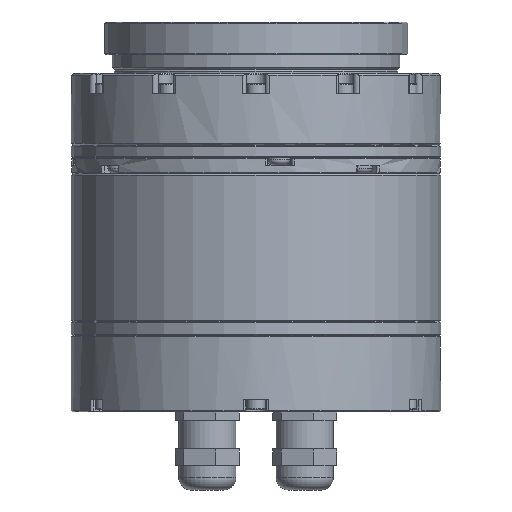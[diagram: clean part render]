
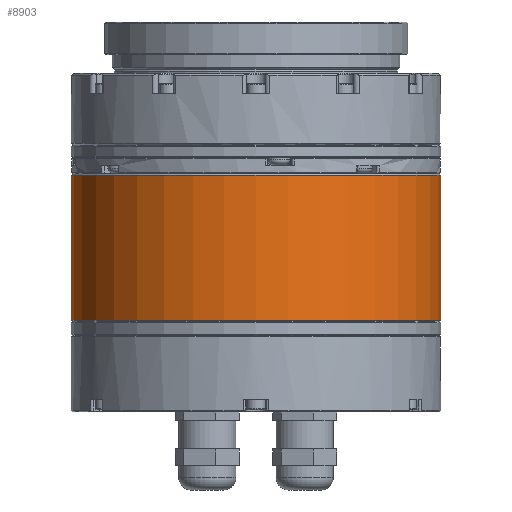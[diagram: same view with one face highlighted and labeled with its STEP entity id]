
A CAD part, front view. The second image highlights one B-rep face of the part: STEP entity #8903.
In plain terms, the highlighted cylindrical face has radius 45 mm (diameter 90 mm), a full revolution.
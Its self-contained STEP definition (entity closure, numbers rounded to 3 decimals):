
#7020=CYLINDRICAL_SURFACE('',#37384,45.);
#8903=ADVANCED_FACE('',(#12283,#12284),#7020,.T.);
#12283=FACE_BOUND('',#15716,.T.);
#12284=FACE_BOUND('',#15717,.T.);
#15716=EDGE_LOOP('',(#22861));
#15717=EDGE_LOOP('',(#22862));
#22861=ORIENTED_EDGE('',*,*,#30656,.F.);
#22862=ORIENTED_EDGE('',*,*,#30655,.T.);
#26898=VERTEX_POINT('',#58289);
#26899=VERTEX_POINT('',#58292);
#30655=EDGE_CURVE('',#26898,#26898,#33314,.T.);
#30656=EDGE_CURVE('',#26899,#26899,#33315,.T.);
#33314=CIRCLE('',#37381,45.);
#33315=CIRCLE('',#37383,45.);
#37381=AXIS2_PLACEMENT_3D('',#58288,#46671,#46672);
#37383=AXIS2_PLACEMENT_3D('',#58291,#46675,#46676);
#37384=AXIS2_PLACEMENT_3D('',#58293,#46677,#46678);
#46671=DIRECTION('',(0.,0.,-1.));
#46672=DIRECTION('',(0.,1.,0.));
#46675=DIRECTION('',(0.,0.,-1.));
#46676=DIRECTION('',(0.,1.,0.));
#46677=DIRECTION('',(0.,0.,-1.));
#46678=DIRECTION('',(0.,-1.,0.));
#58288=CARTESIAN_POINT('',(0.,0.,1.5));
#58289=CARTESIAN_POINT('',(0.,45.,1.5));
#58291=CARTESIAN_POINT('',(0.,0.,-33.8));
#58292=CARTESIAN_POINT('',(0.,45.,-33.8));
#58293=CARTESIAN_POINT('',(0.,0.,-34.1));
